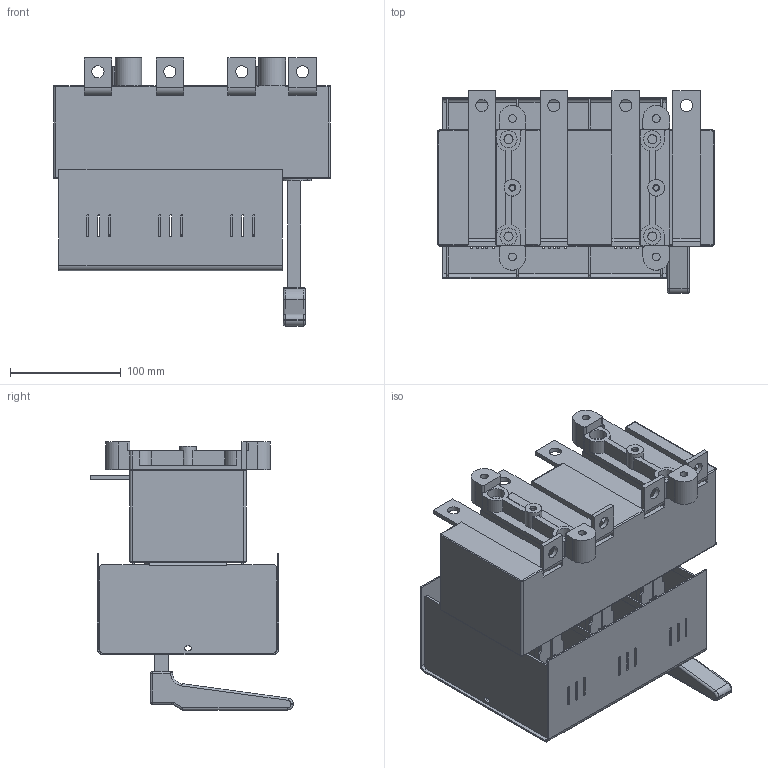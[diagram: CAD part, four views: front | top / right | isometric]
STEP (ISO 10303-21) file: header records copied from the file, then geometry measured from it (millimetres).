
FILE_DESCRIPTION(/* description */ (''),/* implementation_level */ '2;1');
FILE_NAME(/* name */ 'RAB 1 P3 NA-R.stp',/* time_stamp */ '2021-08-19T12:39:20+02:00',/* author */ (''),/* organization */ (''),/* preprocessor_version */ 'ST-DEVELOPER v18.1',/* originating_system */ 'SIEMENS PLM Software NX 1965',/* authorisation */ '');
FILE_SCHEMA (('AUTOMOTIVE_DESIGN { 1 0 10303 214 3 1 1 1 }'));
Length unit declared in the file: millimetre
Products named in the file (1): RAB 1 P3 NA-R_stp
Bounding box: 250 x 182.79 x 242.3 mm (x, y, z)
Volume: 2494943.2 mm3; surface area: 443449.8 mm2
Topology: 1 solids, 1 shells, 1064 faces, 2927 edges, 1892 vertices
Faces by surface type: plane 677, cylinder 365, torus 13, sphere 6, bspline 3
Full cylindrical faces by diameter (mm): 4.8 x2, 6.2 x2, 7 x4, 8.2 x4, 11 x8, 14 x4, 15 x2, 15.5 x4
Entity records: 33782 total; most frequent: CARTESIAN_POINT 5937, ORIENTED_EDGE 5774, DIRECTION 5773, EDGE_CURVE 2887, LINE 2109, VECTOR 2109, VERTEX_POINT 1888, AXIS2_PLACEMENT_3D 1832
